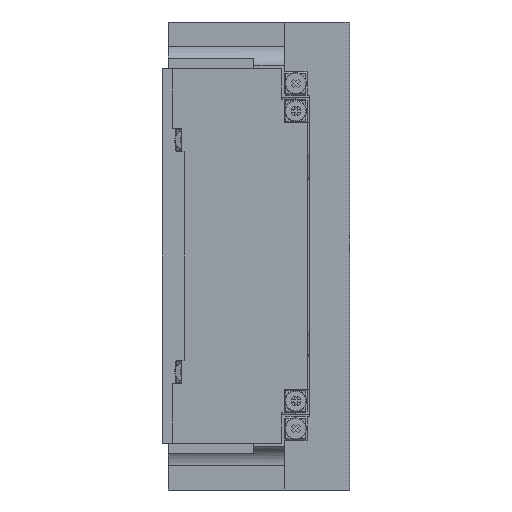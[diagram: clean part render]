
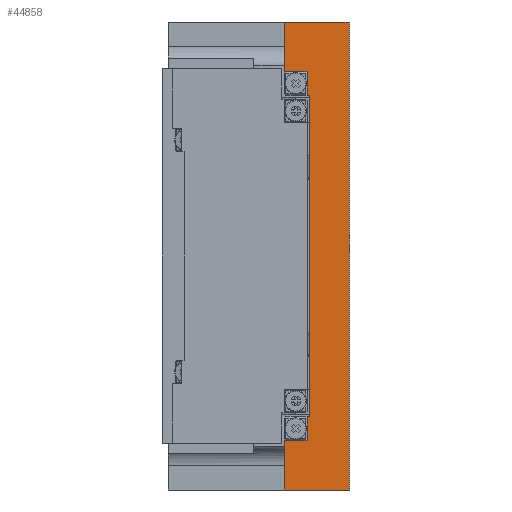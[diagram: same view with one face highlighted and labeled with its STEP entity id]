
A CAD part, left-side view. The second image highlights one B-rep face of the part: STEP entity #44858.
In plain terms, the highlighted planar face has unit normal (-1, 0, 0).
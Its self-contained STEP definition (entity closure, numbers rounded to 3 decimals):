
#1918 = LINE ( 'NONE', #22316, #41854 ) ;
#2206 = VERTEX_POINT ( 'NONE', #39411 ) ;
#3045 = EDGE_CURVE ( 'NONE', #43587, #5716, #4287, .T. ) ;
#3703 = VECTOR ( 'NONE', #40627, 1000. ) ;
#3932 = CARTESIAN_POINT ( 'NONE',  ( -117., 23., -82.5 ) ) ;
#4287 = LINE ( 'NONE', #30008, #26856 ) ;
#4707 = CARTESIAN_POINT ( 'NONE',  ( -117., -229.436, 65. ) ) ;
#4791 = VECTOR ( 'NONE', #30303, 1000. ) ;
#5383 = EDGE_CURVE ( 'NONE', #59241, #2206, #26686, .T. ) ;
#5564 = VERTEX_POINT ( 'NONE', #22089 ) ;
#5716 = VERTEX_POINT ( 'NONE', #57671 ) ;
#5723 = LINE ( 'NONE', #35446, #44132 ) ;
#6050 = DIRECTION ( 'NONE',  ( 0., 0., 1. ) ) ;
#6608 = ORIENTED_EDGE ( 'NONE', *, *, #43858, .F. ) ;
#7423 = CARTESIAN_POINT ( 'NONE',  ( -117., 23., -82.5 ) ) ;
#7884 = ORIENTED_EDGE ( 'NONE', *, *, #38233, .T. ) ;
#7985 = CARTESIAN_POINT ( 'NONE',  ( -117., 14., -56.7 ) ) ;
#8132 = VERTEX_POINT ( 'NONE', #7423 ) ;
#9385 = ORIENTED_EDGE ( 'NONE', *, *, #5383, .T. ) ;
#10318 = CARTESIAN_POINT ( 'NONE',  ( -117., 23., 65. ) ) ;
#12369 = VERTEX_POINT ( 'NONE', #10318 ) ;
#13284 = CARTESIAN_POINT ( 'NONE',  ( -117., 15., -65. ) ) ;
#13302 = ORIENTED_EDGE ( 'NONE', *, *, #44702, .T. ) ;
#13665 = DIRECTION ( 'NONE',  ( 1., 0., 0. ) ) ;
#14464 = AXIS2_PLACEMENT_3D ( 'NONE', #3932, #13665, #47298 ) ;
#17192 = DIRECTION ( 'NONE',  ( 0., -1., 0. ) ) ;
#17534 = CARTESIAN_POINT ( 'NONE',  ( -117., 23., -82.5 ) ) ;
#18267 = CARTESIAN_POINT ( 'NONE',  ( -117., 23., 82.5 ) ) ;
#19071 = CARTESIAN_POINT ( 'NONE',  ( -117., 15., 56.7 ) ) ;
#19268 = EDGE_LOOP ( 'NONE', ( #29241, #13302, #46358, #9385, #50721, #53632, #34717, #55515, #38065, #6608, #7884, #58286 ) ) ;
#20667 = VECTOR ( 'NONE', #48987, 1000. ) ;
#22089 = CARTESIAN_POINT ( 'NONE',  ( -117., 14., 56.7 ) ) ;
#22316 = CARTESIAN_POINT ( 'NONE',  ( -117., 14., 56.7 ) ) ;
#25163 = EDGE_CURVE ( 'NONE', #8132, #43587, #29433, .T. ) ;
#25384 = CARTESIAN_POINT ( 'NONE',  ( -117., 15., 65. ) ) ;
#26481 = CARTESIAN_POINT ( 'NONE',  ( -117., 14., -56.7 ) ) ;
#26686 = LINE ( 'NONE', #58730, #4791 ) ;
#26856 = VECTOR ( 'NONE', #6050, 1000. ) ;
#27241 = CARTESIAN_POINT ( 'NONE',  ( -117., 23., -82.5 ) ) ;
#27449 = CARTESIAN_POINT ( 'NONE',  ( -117., 15., -56.7 ) ) ;
#29063 = LINE ( 'NONE', #7985, #49464 ) ;
#29241 = ORIENTED_EDGE ( 'NONE', *, *, #29455, .F. ) ;
#29433 = LINE ( 'NONE', #27241, #40744 ) ;
#29455 = EDGE_CURVE ( 'NONE', #34937, #5564, #29063, .T. ) ;
#30008 = CARTESIAN_POINT ( 'NONE',  ( -117., 0.2, -82.5 ) ) ;
#30090 = VERTEX_POINT ( 'NONE', #18267 ) ;
#30303 = DIRECTION ( 'NONE',  ( 0., 1., 0. ) ) ;
#32231 = DIRECTION ( 'NONE',  ( 0., 0., 1. ) ) ;
#32375 = FACE_OUTER_BOUND ( 'NONE', #19268, .T. ) ;
#33923 = EDGE_CURVE ( 'NONE', #8132, #2206, #5723, .T. ) ;
#34717 = ORIENTED_EDGE ( 'NONE', *, *, #3045, .T. ) ;
#34862 = CARTESIAN_POINT ( 'NONE',  ( -117., 15., -65. ) ) ;
#34937 = VERTEX_POINT ( 'NONE', #26481 ) ;
#35446 = CARTESIAN_POINT ( 'NONE',  ( -117., 23., -82.5 ) ) ;
#38065 = ORIENTED_EDGE ( 'NONE', *, *, #60071, .F. ) ;
#38233 = EDGE_CURVE ( 'NONE', #58577, #38547, #62105, .T. ) ;
#38440 = VECTOR ( 'NONE', #60122, 1000. ) ;
#38547 = VERTEX_POINT ( 'NONE', #19071 ) ;
#39411 = CARTESIAN_POINT ( 'NONE',  ( -117., 23., -65. ) ) ;
#40216 = CARTESIAN_POINT ( 'NONE',  ( -117., 23., 82.5 ) ) ;
#40379 = VECTOR ( 'NONE', #32231, 1000. ) ;
#40627 = DIRECTION ( 'NONE',  ( 0., -1., 0. ) ) ;
#40744 = VECTOR ( 'NONE', #17192, 1000. ) ;
#40762 = CARTESIAN_POINT ( 'NONE',  ( -117., 14., -56.7 ) ) ;
#41097 = DIRECTION ( 'NONE',  ( 0., 0., 1. ) ) ;
#41854 = VECTOR ( 'NONE', #46714, 1000. ) ;
#42354 = VECTOR ( 'NONE', #43830, 1000. ) ;
#42944 = VERTEX_POINT ( 'NONE', #27449 ) ;
#43587 = VERTEX_POINT ( 'NONE', #53053 ) ;
#43830 = DIRECTION ( 'NONE',  ( 0., 1., 0. ) ) ;
#43858 = EDGE_CURVE ( 'NONE', #58577, #12369, #55887, .T. ) ;
#44132 = VECTOR ( 'NONE', #41097, 1000. ) ;
#44702 = EDGE_CURVE ( 'NONE', #34937, #42944, #61036, .T. ) ;
#44858 = ADVANCED_FACE ( 'NONE', ( #32375 ), #61406, .F. ) ;
#45313 = EDGE_CURVE ( 'NONE', #42944, #59241, #46649, .T. ) ;
#46358 = ORIENTED_EDGE ( 'NONE', *, *, #45313, .T. ) ;
#46649 = LINE ( 'NONE', #55667, #52730 ) ;
#46714 = DIRECTION ( 'NONE',  ( 0., 1., 0. ) ) ;
#47298 = DIRECTION ( 'NONE',  ( 0., 0., -1. ) ) ;
#48700 = LINE ( 'NONE', #17534, #40379 ) ;
#48987 = DIRECTION ( 'NONE',  ( 0., 0., -1. ) ) ;
#49464 = VECTOR ( 'NONE', #56813, 1000. ) ;
#50625 = DIRECTION ( 'NONE',  ( 0., 0., -1. ) ) ;
#50721 = ORIENTED_EDGE ( 'NONE', *, *, #33923, .F. ) ;
#52730 = VECTOR ( 'NONE', #50625, 1000. ) ;
#53053 = CARTESIAN_POINT ( 'NONE',  ( -117., 0.2, -82.5 ) ) ;
#53480 = EDGE_CURVE ( 'NONE', #30090, #5716, #60145, .T. ) ;
#53632 = ORIENTED_EDGE ( 'NONE', *, *, #25163, .T. ) ;
#55515 = ORIENTED_EDGE ( 'NONE', *, *, #53480, .F. ) ;
#55667 = CARTESIAN_POINT ( 'NONE',  ( -117., 15., -65. ) ) ;
#55887 = LINE ( 'NONE', #4707, #42354 ) ;
#56813 = DIRECTION ( 'NONE',  ( 0., 0., 1. ) ) ;
#57671 = CARTESIAN_POINT ( 'NONE',  ( -117., 0.2, 82.5 ) ) ;
#58286 = ORIENTED_EDGE ( 'NONE', *, *, #60827, .F. ) ;
#58577 = VERTEX_POINT ( 'NONE', #25384 ) ;
#58730 = CARTESIAN_POINT ( 'NONE',  ( -117., -229.436, -65. ) ) ;
#59241 = VERTEX_POINT ( 'NONE', #13284 ) ;
#60071 = EDGE_CURVE ( 'NONE', #12369, #30090, #48700, .T. ) ;
#60122 = DIRECTION ( 'NONE',  ( 0., 1., 0. ) ) ;
#60145 = LINE ( 'NONE', #40216, #3703 ) ;
#60827 = EDGE_CURVE ( 'NONE', #5564, #38547, #1918, .T. ) ;
#61036 = LINE ( 'NONE', #40762, #38440 ) ;
#61406 = PLANE ( 'NONE',  #14464 ) ;
#62105 = LINE ( 'NONE', #34862, #20667 ) ;
